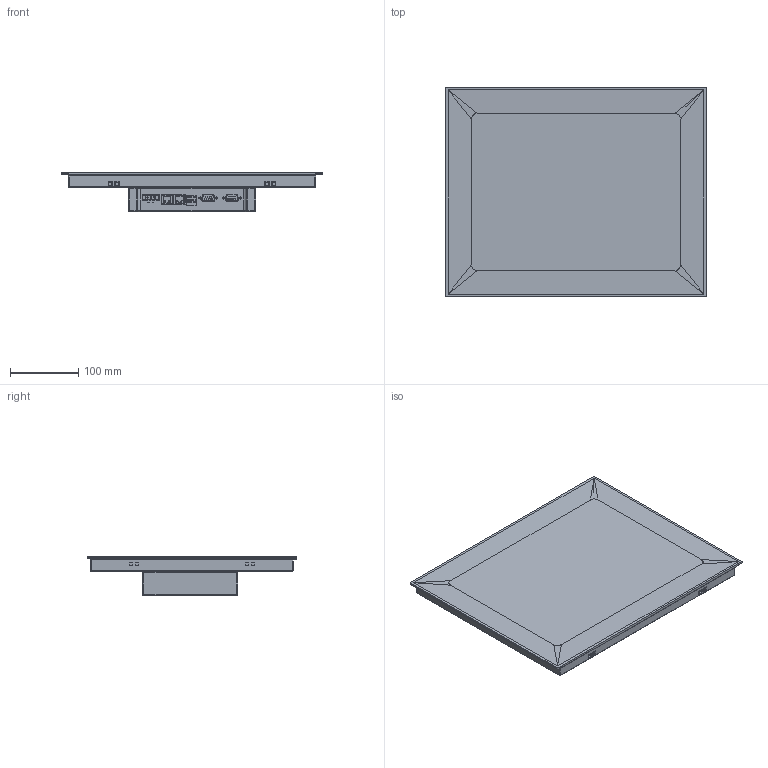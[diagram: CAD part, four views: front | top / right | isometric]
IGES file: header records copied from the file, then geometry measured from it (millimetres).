
Start section:  PTC IGES file: cu_tpc-2215.igs
Global section: file name: cu_tpc-2215.igs; native system: Pro/ENGINEER by Parametric Technology Corporation; preprocessor: 2011490; author: jbuhisan; organization: Unknown; date: 20130913.092156; units: inch
Bounding box: 383 x 307 x 58.1 mm (x, y, z)
Surface area: 328927.3 mm2 (no closed solid volume)
Topology: 0 solids, 0 shells, 1438 faces, 6955 edges, 6936 vertices
Faces by surface type: bspline 1063, revolution 250, extrusion 125
